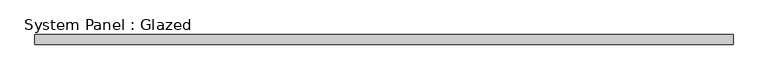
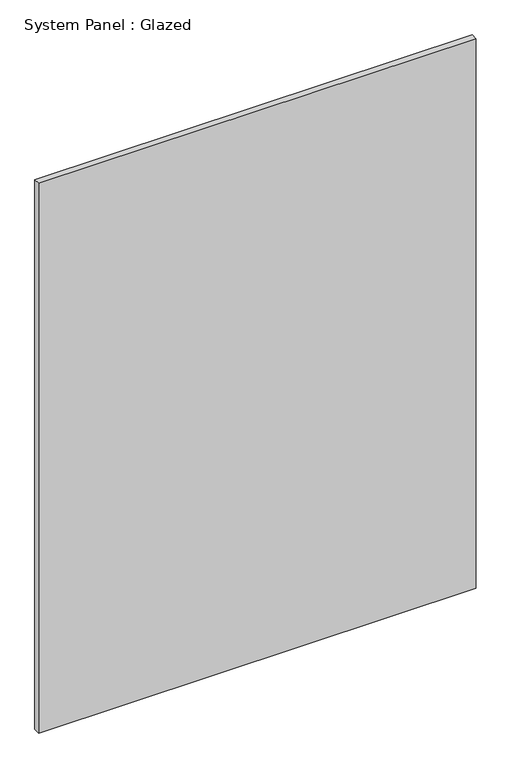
"""IFC4 building model written with IfcOpenShell, lengths in millimetres: plate geometry, System Panel : Glazed."""

from ifc_helpers import new_model, si_unit, origin, origin_with_axes, place, context, project, spatial, polyline, outline, extrude, source, transform, mapped, element, save


def system_panel_glazed_5b519c5a(model_context):
    return source(origin(), model_context, "Body", "SweptSolid", [
        extrude(outline(polyline([(882.65, 19.05), (-882.65, 19.05), (-882.65, 44.45), (882.65, 44.45), (882.65, 19.05)])), origin_with_axes(), (0.0, 0.0, 1.0), 2343.15),
    ])


if __name__ == "__main__":
    model = new_model("IFC4")
    model_context = context("Model", 3, world=origin())
    ifc_project = project(units=[si_unit("LENGTHUNIT", "METRE", prefix="MILLI")], contexts=[model_context])
    site = spatial("IfcSite", under=ifc_project)
    building = spatial("IfcBuilding", under=site)
    placement = place(None, origin())
    system_panel_glazed_shape = system_panel_glazed_5b519c5a(model_context)
    element("IfcPlate", 1, ObjectType="System Panel : Glazed", at=placement, inside=building, context=model_context, shape_type="MappedRepresentation", body=[
        mapped(system_panel_glazed_shape, transform((0.0, 0.0, 0.0), x_axis=(1.0, 0.0, 0.0), y_axis=(0.0, 1.0, 0.0), z_axis=(0.0, 0.0, 1.0))),
    ])
    save(model, "model.ifc")
